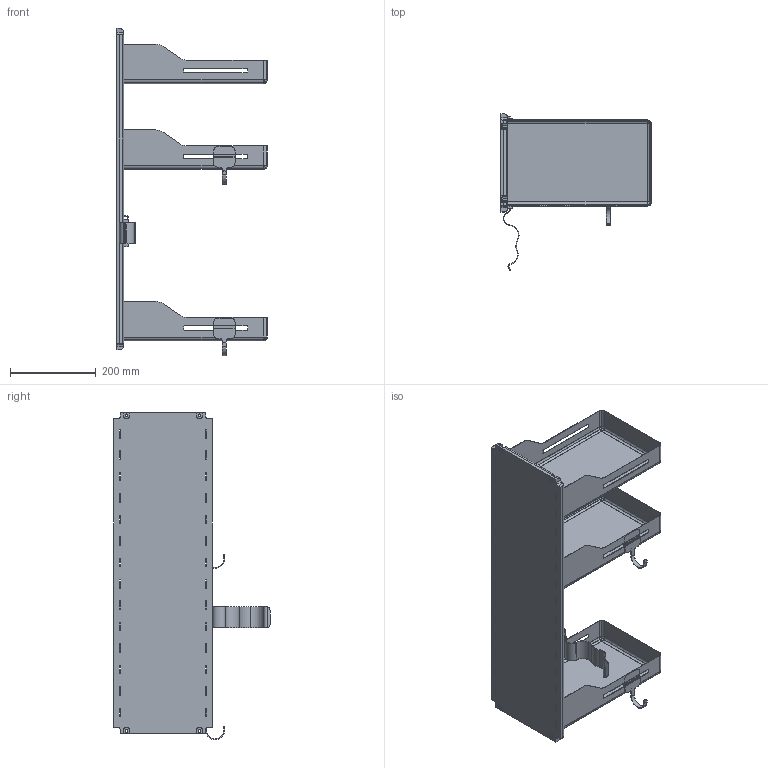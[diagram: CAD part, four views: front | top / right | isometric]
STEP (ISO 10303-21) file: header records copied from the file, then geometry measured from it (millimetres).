
FILE_DESCRIPTION(('STEP AP242'),'1');
FILE_NAME('OPO_53.349.01_volu_3d.stp','2025-11-08T20:28:00',(' '),(' '),'Spatial InterOp 3D',' ',' ');
FILE_SCHEMA(('AP242_MANAGED_MODEL_BASED_3D_ENGINEERING_MIM_LF {1 0 10303 442 1 1 4}'));
Length unit declared in the file: millimetre
Products named in the file (1): 1
Bounding box: 350.8 x 364.68 x 763.5 mm (x, y, z)
Volume: 3081997.5 mm3; surface area: 1143611 mm2
Topology: 7 solids, 7 shells, 808 faces, 2282 edges, 1494 vertices
Faces by surface type: cylinder 482, plane 302, sphere 24
Entity records: 33126 total; most frequent: DIRECTION 4884, CARTESIAN_POINT 4615, ORIENTED_EDGE 4564, EDGE_CURVE 2282, AXIS2_PLACEMENT_3D 1791, VERTEX_POINT 1494, LINE 1302, VECTOR 1302
